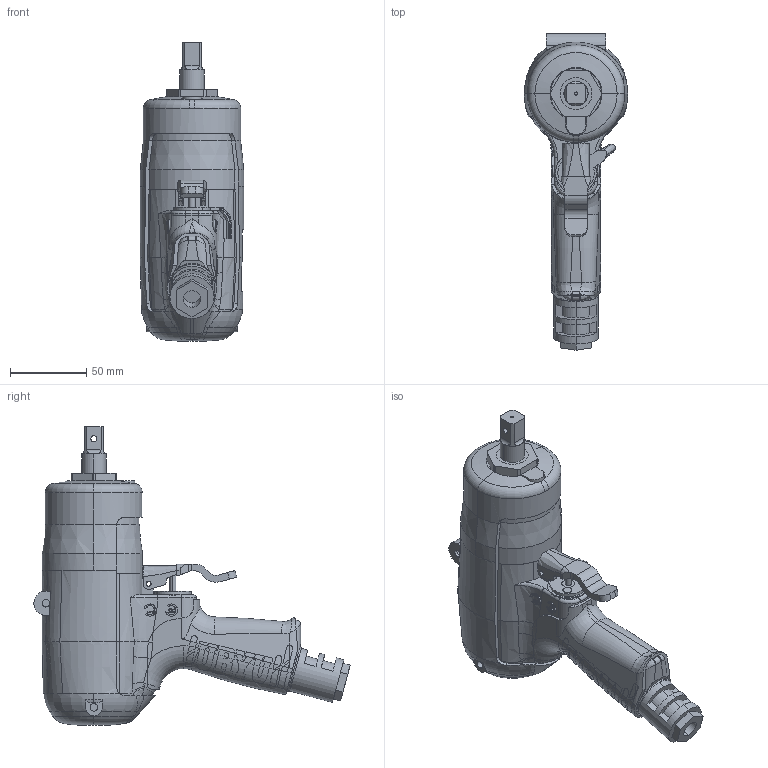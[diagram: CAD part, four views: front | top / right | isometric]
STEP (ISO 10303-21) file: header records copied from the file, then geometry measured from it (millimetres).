
FILE_DESCRIPTION (( 'STEP AP203' ), '1' );
FILE_NAME ('UL130.STEP', '2009-02-05T07:22:43', ( ' ' ), ( ' ' ), 'SwSTEP 2.0', 'SolidWorks 2003240', '' );
FILE_SCHEMA (( 'CONFIG_CONTROL_DESIGN' ));
Length unit declared in the file: millimetre
Products named in the file (9): 1410250_UL130_蹬怮椔; 1413190_UL130_蹬怮椔; UL130; 1301042_UL130_蹬怮椔; 1302122_UL130_蹬怮椔; 1414390_UL130_蹬怮椔; 1418400_UL130_蹬怮椔; 1308422_UL130_蹬怮椔; 1301072_UL130_蹬怮椔
Assembly tree (8 placements, depth 2):
  UL130
    1418400_UL130_蹬怮椔
    1410250_UL130_蹬怮椔
    1302122_UL130_蹬怮椔
    1308422_UL130_蹬怮椔
    1301042_UL130_蹬怮椔
    1301072_UL130_蹬怮椔
    1413190_UL130_蹬怮椔
    1414390_UL130_蹬怮椔
Bounding box: 68.04 x 208.09 x 196.58 mm (x, y, z)
Volume: 704617.3 mm3; surface area: 145090.6 mm2
Topology: 8 solids, 8 shells, 1265 faces, 3528 edges, 2293 vertices
Faces by surface type: plane 672, bspline 245, cylinder 235, torus 77, cone 30, sphere 6
Entity records: 115059 total; most frequent: CARTESIAN_POINT 84850, ORIENTED_EDGE 7040, DIRECTION 4738, EDGE_CURVE 3520, VERTEX_POINT 2293, AXIS2_PLACEMENT_3D 1614, VECTOR 1510, LINE 1510
